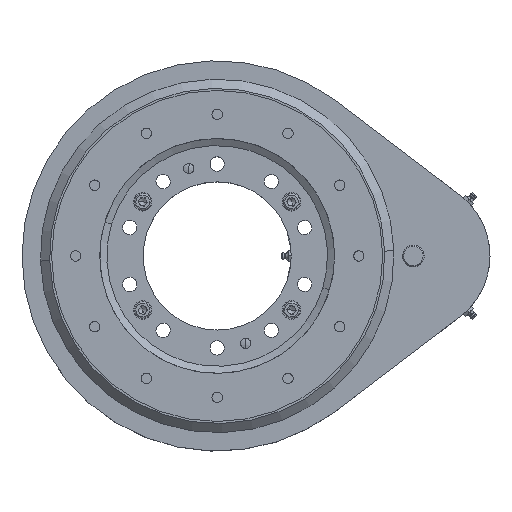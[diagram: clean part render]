
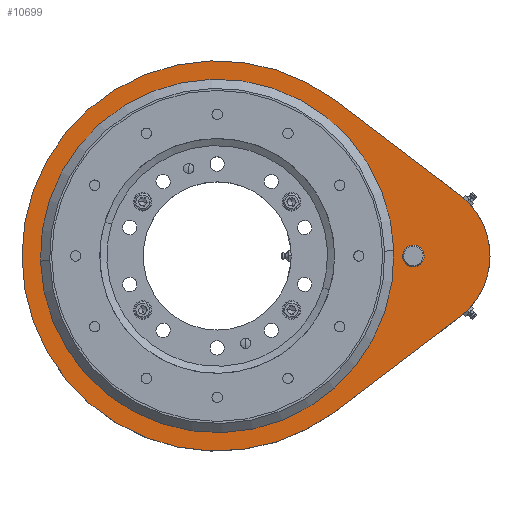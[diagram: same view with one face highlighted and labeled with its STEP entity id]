
A CAD part, top view. The second image highlights one B-rep face of the part: STEP entity #10699.
In plain terms, the highlighted planar face has unit normal (0, 0, 1).
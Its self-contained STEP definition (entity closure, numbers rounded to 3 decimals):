
#116 = LINE ( 'NONE', #5908, #9350 ) ;
#152 = CARTESIAN_POINT ( 'NONE',  ( -15.188, 14.153, 497.5 ) ) ;
#221 = EDGE_CURVE ( 'NONE', #5782, #8836, #12337, .T. ) ;
#460 = AXIS2_PLACEMENT_3D ( 'NONE', #16236, #17948, #7502 ) ;
#746 = DIRECTION ( 'NONE',  ( 0., 0., -1. ) ) ;
#1106 = VERTEX_POINT ( 'NONE', #11332 ) ;
#1318 = CIRCLE ( 'NONE', #12115, 10.5 ) ;
#1352 = EDGE_LOOP ( 'NONE', ( #13830, #18228, #16951, #7550, #9696 ) ) ;
#1394 = AXIS2_PLACEMENT_3D ( 'NONE', #1780, #4779, #12004 ) ;
#1590 = DIRECTION ( 'NONE',  ( 0., 0., 1. ) ) ;
#1780 = CARTESIAN_POINT ( 'NONE',  ( 176.812, 14.153, 497.5 ) ) ;
#2016 = DIRECTION ( 'NONE',  ( 1., 0., 0. ) ) ;
#2336 = EDGE_CURVE ( 'NONE', #6362, #8617, #1318, .T. ) ;
#2715 = ORIENTED_EDGE ( 'NONE', *, *, #7851, .F. ) ;
#2938 = CARTESIAN_POINT ( 'NONE',  ( 176.812, 14.153, 497.5 ) ) ;
#3107 = DIRECTION ( 'NONE',  ( 1., 0., 0. ) ) ;
#3397 = CARTESIAN_POINT ( 'NONE',  ( 100.208, 166.353, 497.5 ) ) ;
#3525 = CARTESIAN_POINT ( 'NONE',  ( 187.312, 14.153, 497.5 ) ) ;
#3600 = DIRECTION ( 'NONE',  ( -0.797, 0.604, 0. ) ) ;
#4337 = CARTESIAN_POINT ( 'NONE',  ( -15.188, 14.153, 497.5 ) ) ;
#4544 = FACE_BOUND ( 'NONE', #17962, .T. ) ;
#4779 = DIRECTION ( 'NONE',  ( 0., 0., -1. ) ) ;
#5632 = ORIENTED_EDGE ( 'NONE', *, *, #2336, .T. ) ;
#5782 = VERTEX_POINT ( 'NONE', #15266 ) ;
#5812 = CARTESIAN_POINT ( 'NONE',  ( 100.208, -138.047, 497.5 ) ) ;
#5908 = CARTESIAN_POINT ( 'NONE',  ( 100.208, -138.047, 497.5 ) ) ;
#5956 = DIRECTION ( 'NONE',  ( 0., 0., 1. ) ) ;
#6125 = DIRECTION ( 'NONE',  ( 0., 0., 1. ) ) ;
#6362 = VERTEX_POINT ( 'NONE', #3525 ) ;
#6381 = EDGE_CURVE ( 'NONE', #8617, #6362, #9746, .T. ) ;
#6634 = DIRECTION ( 'NONE',  ( 1., 0., 0. ) ) ;
#6659 = CIRCLE ( 'NONE', #15549, 169. ) ;
#6969 = VERTEX_POINT ( 'NONE', #11063 ) ;
#7018 = CARTESIAN_POINT ( 'NONE',  ( -184.188, 14.153, 497.5 ) ) ;
#7190 = VECTOR ( 'NONE', #3600, 1000. ) ;
#7309 = ORIENTED_EDGE ( 'NONE', *, *, #6381, .T. ) ;
#7502 = DIRECTION ( 'NONE',  ( 1., 0., 0. ) ) ;
#7550 = ORIENTED_EDGE ( 'NONE', *, *, #221, .T. ) ;
#7851 = EDGE_CURVE ( 'NONE', #6969, #16407, #14108, .T. ) ;
#8617 = VERTEX_POINT ( 'NONE', #17973 ) ;
#8836 = VERTEX_POINT ( 'NONE', #14431 ) ;
#9350 = VECTOR ( 'NONE', #11774, 1000. ) ;
#9696 = ORIENTED_EDGE ( 'NONE', *, *, #15246, .T. ) ;
#9746 = CIRCLE ( 'NONE', #1394, 10.5 ) ;
#10168 = EDGE_LOOP ( 'NONE', ( #7309, #5632 ) ) ;
#10437 = DIRECTION ( 'NONE',  ( 1., 0., 0. ) ) ;
#10593 = CIRCLE ( 'NONE', #12091, 191. ) ;
#10699 = ADVANCED_FACE ( 'NONE', ( #15228, #16562, #4544 ), #17700, .T. ) ;
#10738 = DIRECTION ( 'NONE',  ( 0., 0., 1. ) ) ;
#10984 = DIRECTION ( 'NONE',  ( -1., 0., 0. ) ) ;
#11063 = CARTESIAN_POINT ( 'NONE',  ( 153.812, 14.153, 497.5 ) ) ;
#11071 = CARTESIAN_POINT ( 'NONE',  ( 176.812, 14.153, 497.5 ) ) ;
#11332 = CARTESIAN_POINT ( 'NONE',  ( -206.188, 14.153, 497.5 ) ) ;
#11575 = DIRECTION ( 'NONE',  ( 1., 0., 0. ) ) ;
#11636 = EDGE_CURVE ( 'NONE', #16407, #6969, #6659, .T. ) ;
#11774 = DIRECTION ( 'NONE',  ( 0.797, 0.604, 0. ) ) ;
#11821 = AXIS2_PLACEMENT_3D ( 'NONE', #12164, #10738, #10437 ) ;
#12004 = DIRECTION ( 'NONE',  ( -1., 0., 0. ) ) ;
#12091 = AXIS2_PLACEMENT_3D ( 'NONE', #13269, #1590, #11575 ) ;
#12115 = AXIS2_PLACEMENT_3D ( 'NONE', #11071, #746, #10984 ) ;
#12164 = CARTESIAN_POINT ( 'NONE',  ( -15.188, 14.153, 497.5 ) ) ;
#12337 = CIRCLE ( 'NONE', #16327, 75. ) ;
#13269 = CARTESIAN_POINT ( 'NONE',  ( -15.188, 14.153, 497.5 ) ) ;
#13680 = DIRECTION ( 'NONE',  ( 0., 0., 1. ) ) ;
#13830 = ORIENTED_EDGE ( 'NONE', *, *, #16217, .T. ) ;
#14108 = CIRCLE ( 'NONE', #16531, 169. ) ;
#14431 = CARTESIAN_POINT ( 'NONE',  ( 222.124, 73.917, 497.5 ) ) ;
#14592 = VERTEX_POINT ( 'NONE', #5812 ) ;
#14613 = CIRCLE ( 'NONE', #460, 191. ) ;
#15228 = FACE_BOUND ( 'NONE', #10168, .T. ) ;
#15246 = EDGE_CURVE ( 'NONE', #8836, #17222, #15338, .T. ) ;
#15266 = CARTESIAN_POINT ( 'NONE',  ( 222.124, -45.612, 497.5 ) ) ;
#15338 = LINE ( 'NONE', #3397, #7190 ) ;
#15549 = AXIS2_PLACEMENT_3D ( 'NONE', #4337, #13680, #2016 ) ;
#16008 = ORIENTED_EDGE ( 'NONE', *, *, #11636, .F. ) ;
#16217 = EDGE_CURVE ( 'NONE', #17222, #1106, #14613, .T. ) ;
#16236 = CARTESIAN_POINT ( 'NONE',  ( -15.188, 14.153, 497.5 ) ) ;
#16327 = AXIS2_PLACEMENT_3D ( 'NONE', #2938, #5956, #6634 ) ;
#16407 = VERTEX_POINT ( 'NONE', #7018 ) ;
#16531 = AXIS2_PLACEMENT_3D ( 'NONE', #152, #6125, #3107 ) ;
#16562 = FACE_OUTER_BOUND ( 'NONE', #1352, .T. ) ;
#16951 = ORIENTED_EDGE ( 'NONE', *, *, #18874, .T. ) ;
#17083 = EDGE_CURVE ( 'NONE', #1106, #14592, #10593, .T. ) ;
#17222 = VERTEX_POINT ( 'NONE', #17292 ) ;
#17292 = CARTESIAN_POINT ( 'NONE',  ( 100.208, 166.353, 497.5 ) ) ;
#17700 = PLANE ( 'NONE',  #11821 ) ;
#17948 = DIRECTION ( 'NONE',  ( 0., 0., 1. ) ) ;
#17962 = EDGE_LOOP ( 'NONE', ( #2715, #16008 ) ) ;
#17973 = CARTESIAN_POINT ( 'NONE',  ( 166.312, 14.153, 497.5 ) ) ;
#18228 = ORIENTED_EDGE ( 'NONE', *, *, #17083, .T. ) ;
#18874 = EDGE_CURVE ( 'NONE', #14592, #5782, #116, .T. ) ;
